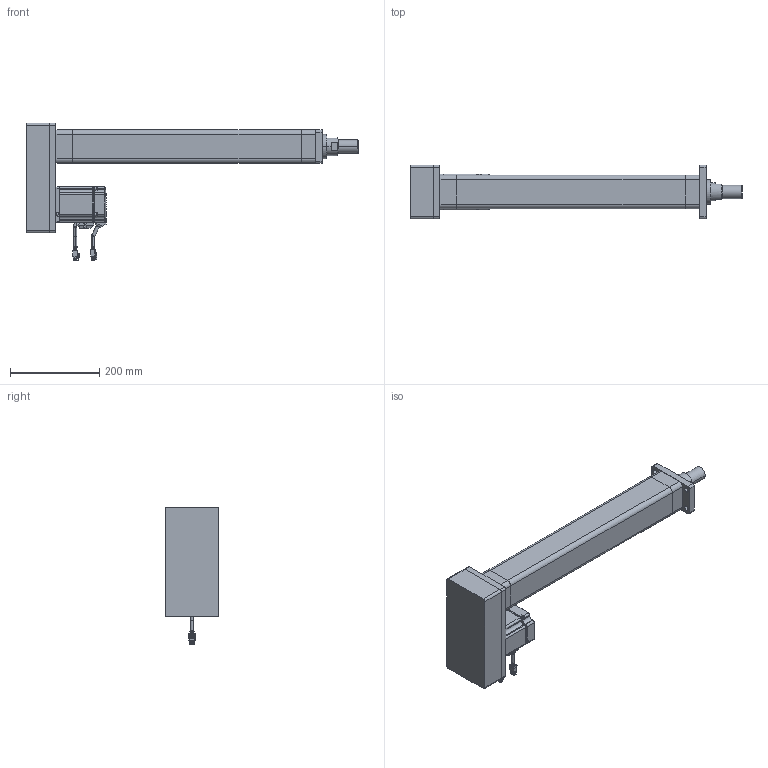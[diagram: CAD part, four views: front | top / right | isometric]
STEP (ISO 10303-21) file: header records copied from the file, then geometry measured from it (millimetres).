
FILE_DESCRIPTION (( 'STEP AP203' ), '1' );
FILE_NAME ('RKD63-P-FA-750W-B3.STEP', '2025-01-23T10:50:42', ( '' ), ( '' ), 'SwSTEP 2.0', 'SolidWorks 2024', '' );
FILE_SCHEMA (( 'CONFIG_CONTROL_DESIGN' ));
Length unit declared in the file: millimetre
Products named in the file (12): 复件 AIME-63-HDG^复件 FESP-63-NEARCAP-PT_复件 FESP63-A_RKD63-P-FA-750W-B3; 复件 FESP-63-BASE-PT^复件 FESP63-A_RKD63-P-FA-750W-B3; 复件 前法兰063-FA^RKD63-P-FA-750W-B3; RKD63-P-FA-750W-B3; 复件 AIME-63-HDCZ-1_1^复件 FESP-63-NEARCAP-PT_复件 FESP63-A_RKD63-P-FA-750W-B3; 复件 FESP-63-FARCAP-PT^复件 FESP63-A_RKD63-P-FA-750W-B3; 复件 FESP63-A^RKD63-P-FA-750W-B3; 复件 转折座063-021-02^RKD63-P-FA-750W-B3; 复件 伺服电机80x80-750W^RKD63-P-FA-750W-B3; 复件 FESP-63-NEARCAP-PT^复件 FESP63-A_RKD63-P-FA-750W-B3; 复件 转折板RKD063-020-02^RKD63-P-FA-750W-B3; 复件 AIME-63-HDLM^复件 FESP-63-NEARCAP-PT_复件 FESP63-A_RKD63-P-FA-750W-B3
Assembly tree (11 placements, depth 4):
  RKD63-P-FA-750W-B3
    复件 FESP63-A^RKD63-P-FA-750W-B3
      复件 FESP-63-BASE-PT^复件 FESP63-A_RKD63-P-FA-750W-B3
      复件 FESP-63-FARCAP-PT^复件 FESP63-A_RKD63-P-FA-750W-B3
      复件 FESP-63-NEARCAP-PT^复件 FESP63-A_RKD63-P-FA-750W-B3
        复件 AIME-63-HDLM^复件 FESP-63-NEARCAP-PT_复件 FESP63-A_RKD63-P-FA-750W-B3
        复件 AIME-63-HDCZ-1_1^复件 FESP-63-NEARCAP-PT_复件 FESP63-A_RKD63-P-FA-750W-B3
        复件 AIME-63-HDG^复件 FESP-63-NEARCAP-PT_复件 FESP63-A_RKD63-P-FA-750W-B3
    复件 伺服电机80x80-750W^RKD63-P-FA-750W-B3
    复件 前法兰063-FA^RKD63-P-FA-750W-B3
    复件 转折板RKD063-020-02^RKD63-P-FA-750W-B3
    复件 转折座063-021-02^RKD63-P-FA-750W-B3
Bounding box: 742 x 120 x 307.8 mm (x, y, z)
Volume: 4060891 mm3; surface area: 598172.8 mm2
Topology: 16 solids, 16 shells, 1055 faces, 2650 edges, 1719 vertices
Faces by surface type: plane 544, cylinder 356, cone 84, bspline 63, torus 8
Entity records: 33698 total; most frequent: CARTESIAN_POINT 6685, DIRECTION 5421, ORIENTED_EDGE 5300, EDGE_CURVE 2650, AXIS2_PLACEMENT_3D 1905, VERTEX_POINT 1719, VECTOR 1611, LINE 1611
